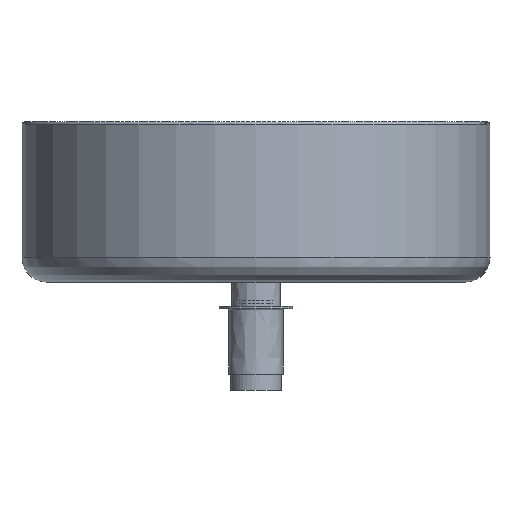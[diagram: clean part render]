
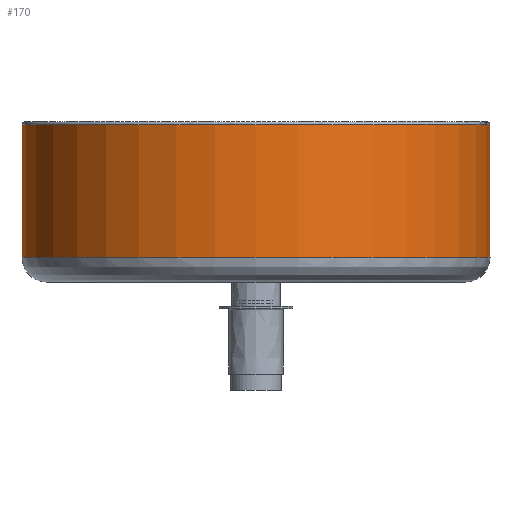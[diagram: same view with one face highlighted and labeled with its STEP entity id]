
A CAD part, front view. The second image highlights one B-rep face of the part: STEP entity #170.
In plain terms, the highlighted cylindrical face has radius 190 mm (diameter 380 mm), a partial arc.
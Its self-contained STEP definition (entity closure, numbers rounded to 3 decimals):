
#170=ADVANCED_FACE('',(#426),#3672,.T.);
#426=FACE_OUTER_BOUND('',#682,.T.);
#682=EDGE_LOOP('',(#1012,#1013,#1014,#1015));
#1012=ORIENTED_EDGE('',*,*,#2065,.T.);
#1013=ORIENTED_EDGE('',*,*,#2049,.T.);
#1014=ORIENTED_EDGE('',*,*,#2094,.F.);
#1015=ORIENTED_EDGE('',*,*,#2093,.F.);
#2049=EDGE_CURVE('',#3253,#3267,#2556,.T.);
#2065=EDGE_CURVE('',#3275,#3253,#2838,.T.);
#2093=EDGE_CURVE('',#3275,#3289,#2567,.T.);
#2094=EDGE_CURVE('',#3289,#3267,#2858,.T.);
#2556=B_SPLINE_CURVE_WITH_KNOTS('',1,(#5588,#5589),.UNSPECIFIED.,.F.,.F.,
(2,2),(0.,107.499),.UNSPECIFIED.);
#2567=B_SPLINE_CURVE_WITH_KNOTS('',1,(#5709,#5710),.UNSPECIFIED.,.F.,.F.,
(2,2),(0.,107.499),.UNSPECIFIED.);
#2838=TRIMMED_CURVE($,#3064,(#5634),(#5635),.T.,.CARTESIAN.);
#2858=TRIMMED_CURVE($,#3084,(#5712),(#5713),.T.,.CARTESIAN.);
#3064=CIRCLE('',#3937,190.);
#3084=CIRCLE('',#3957,190.);
#3253=VERTEX_POINT('',#5438);
#3267=VERTEX_POINT('',#5452);
#3275=VERTEX_POINT('',#5460);
#3289=VERTEX_POINT('',#5474);
#3672=CYLINDRICAL_SURFACE('',#3888,190.);
#3888=AXIS2_PLACEMENT_3D('',#5146,#4289,$);
#3937=AXIS2_PLACEMENT_3D($,#5633,#4382,#4383);
#3957=AXIS2_PLACEMENT_3D($,#5711,#4422,#4423);
#4289=DIRECTION('',(0.,0.,1.));
#4382=DIRECTION('',(0.,0.,-1.));
#4383=DIRECTION('',(1.,0.,0.));
#4422=DIRECTION('',(0.,0.,-1.));
#4423=DIRECTION('',(1.,0.,0.));
#5146=CARTESIAN_POINT('',(2168.741,0.,-1452.67));
#5438=CARTESIAN_POINT('',(1978.741,0.,-1398.92));
#5452=CARTESIAN_POINT('',(1978.741,0.,-1506.419));
#5460=CARTESIAN_POINT('',(2358.741,0.,-1398.92));
#5474=CARTESIAN_POINT('',(2358.741,0.,-1506.419));
#5588=CARTESIAN_POINT('',(1978.741,0.,-1398.92));
#5589=CARTESIAN_POINT('',(1978.741,0.,-1506.419));
#5633=CARTESIAN_POINT('',(2168.741,0.,-1398.92));
#5634=CARTESIAN_POINT('',(2358.741,0.,-1398.92));
#5635=CARTESIAN_POINT('',(1978.741,0.,-1398.92));
#5709=CARTESIAN_POINT('',(2358.741,0.,-1398.92));
#5710=CARTESIAN_POINT('',(2358.741,0.,-1506.419));
#5711=CARTESIAN_POINT('',(2168.741,0.,-1506.419));
#5712=CARTESIAN_POINT('',(2358.741,0.,-1506.419));
#5713=CARTESIAN_POINT('',(1978.741,0.,-1506.419));
